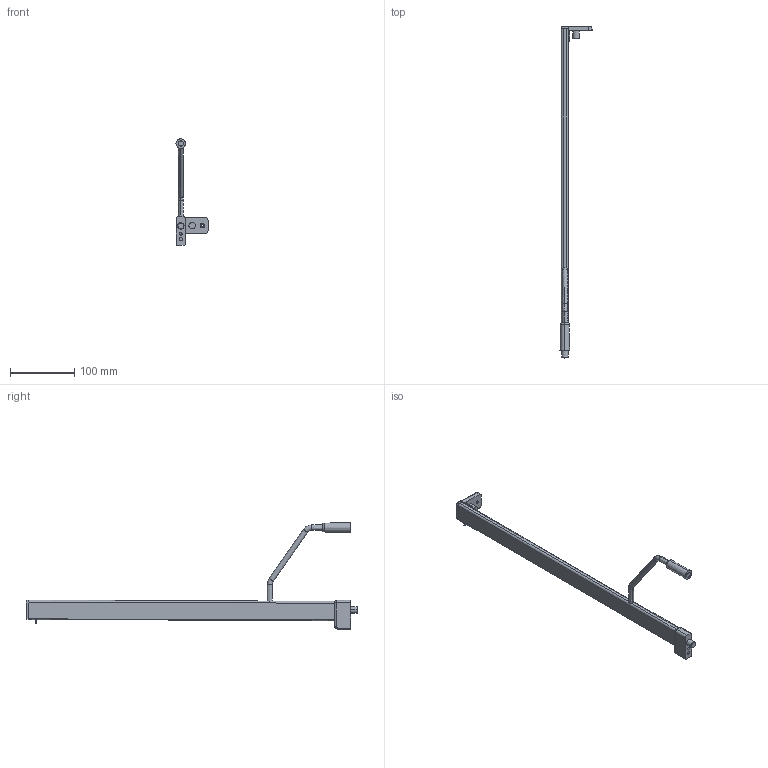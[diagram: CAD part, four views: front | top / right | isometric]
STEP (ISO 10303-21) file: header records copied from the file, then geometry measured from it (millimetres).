
FILE_DESCRIPTION (( 'STEP AP214' ), '1' );
FILE_NAME ('_2S_REL_7606_NL500_LI_Frontstütze.step', '2010-07-01T14:42:07', ( 'grass' ), ( '' ), 'SwSTEP 2.0', 'SolidWorks 2009', '' );
FILE_SCHEMA (( 'AUTOMOTIVE_DESIGN' ));
Length unit declared in the file: millimetre
Products named in the file (1): _2S_REL_7606_NL500_LI_Frontstütze
Bounding box: 49.75 x 515.5 x 165.5 mm (x, y, z)
Volume: 184449.9 mm3; surface area: 51400.6 mm2
Topology: 2 solids, 2 shells, 142 faces, 341 edges, 207 vertices
Faces by surface type: cylinder 60, plane 46, bspline 16, torus 12, cone 6, sphere 2
Entity records: 5281 total; most frequent: CARTESIAN_POINT 2077, ORIENTED_EDGE 678, DIRECTION 655, EDGE_CURVE 339, AXIS2_PLACEMENT_3D 251, VERTEX_POINT 207, LINE 153, VECTOR 153
